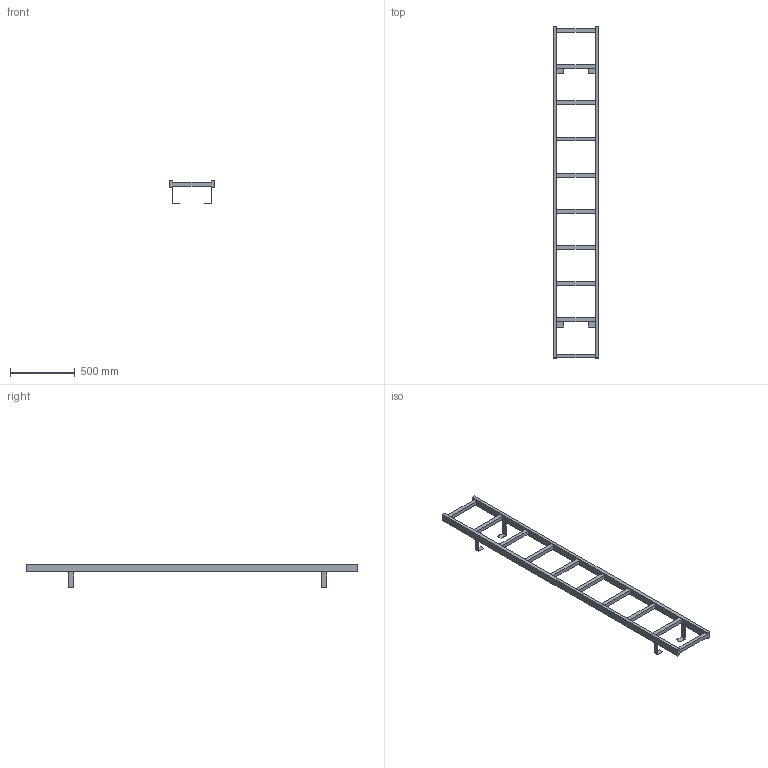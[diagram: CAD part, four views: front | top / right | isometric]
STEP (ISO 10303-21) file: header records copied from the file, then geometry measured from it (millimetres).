
FILE_DESCRIPTION((''),'2;1');
FILE_NAME('52310951','2024-10-17T12:08:19',('wep'),('HUBER SE'),'CREO PARAMETRIC BY PTC INC, 2022162','CREO PARAMETRIC BY PTC INC, 2022162','');
FILE_SCHEMA(('AUTOMOTIVE_DESIGN { 1 0 10303 214 1 1 1 1 }'));
Length unit declared in the file: millimetre
Products named in the file (1): 52310951
Bounding box: 350 x 2570 x 178.5 mm (x, y, z)
Volume: 10089460 mm3; surface area: 1250148 mm2
Topology: 1 solids, 1 shells, 82 faces, 240 edges, 156 vertices
Faces by surface type: plane 82
Entity records: 3253 total; most frequent: CARTESIAN_POINT 480, ORIENTED_EDGE 480, DIRECTION 404, VECTOR 240, LINE 240, EDGE_CURVE 240, VERTEX_POINT 156, COLOUR_RGB 106
